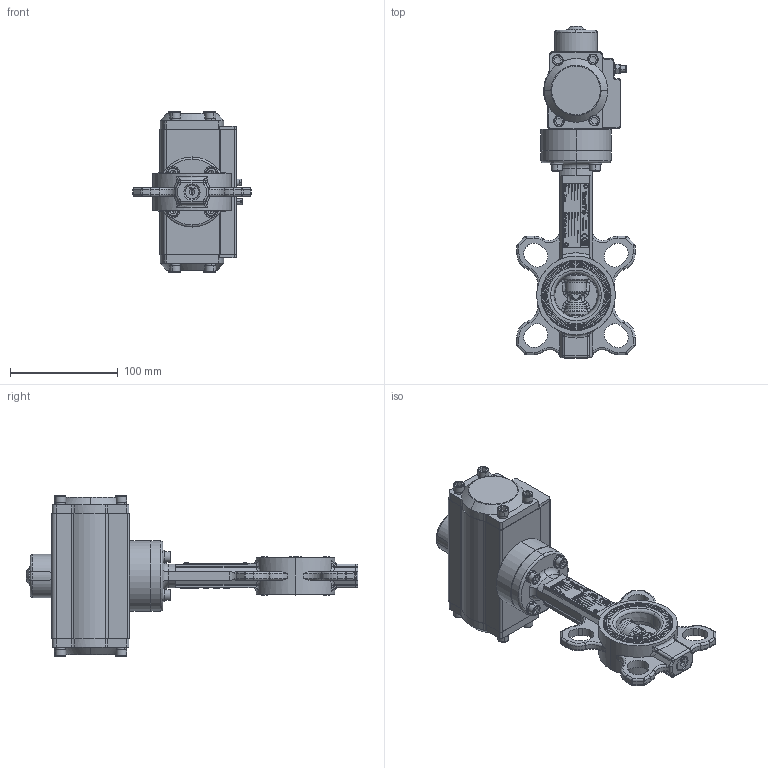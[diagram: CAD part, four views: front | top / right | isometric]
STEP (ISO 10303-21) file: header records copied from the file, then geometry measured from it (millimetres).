
FILE_DESCRIPTION (( 'STEP AP203' ), '1' );
FILE_NAME ('VPN-03 DN40.STEP', '2014-06-20T07:07:55', ( 'FAREX' ), ( '' ), 'SwSTEP 2.0', 'SolidWorks 2011', '' );
FILE_SCHEMA (( 'CONFIG_CONTROL_DESIGN' ));
Products named in the file (1): VPN-03 DN40
Bounding box: 109.78 x 307.82 x 148.56 mm (x, y, z)
Volume: 679810.6 mm3; surface area: 239910.9 mm2
Topology: 69 solids, 69 shells, 4766 faces, 11794 edges, 7602 vertices
Faces by surface type: plane 1743, bspline 1674, cylinder 809, cone 337, torus 179, sphere 24
Entity records: 207651 total; most frequent: CARTESIAN_POINT 105736, ORIENTED_EDGE 23492, DIRECTION 16258, EDGE_CURVE 11746, VERTEX_POINT 7602, LINE 5466, VECTOR 5466, EDGE_LOOP 5398
